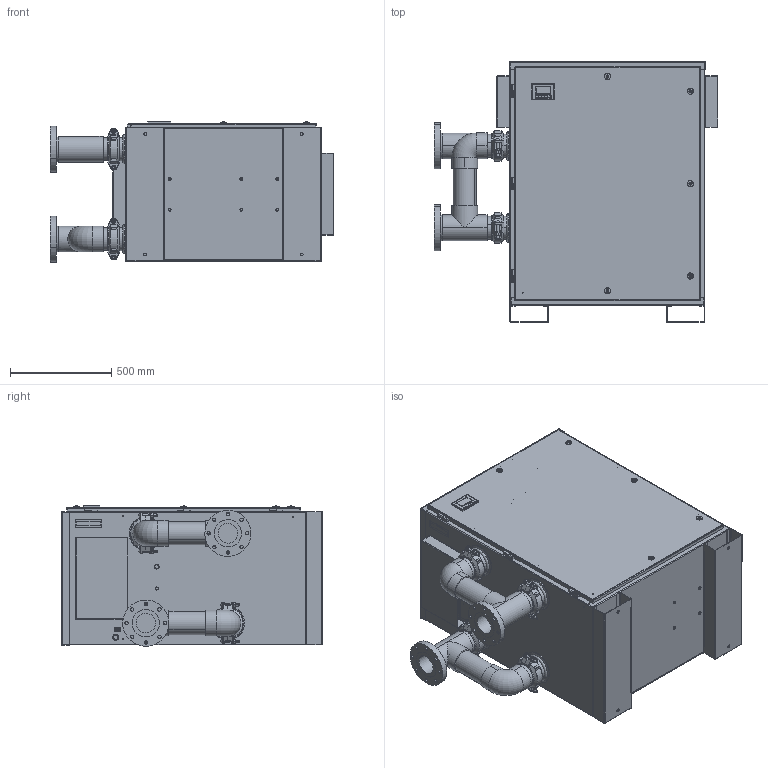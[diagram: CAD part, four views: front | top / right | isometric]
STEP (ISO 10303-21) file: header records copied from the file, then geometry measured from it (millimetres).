
FILE_DESCRIPTION (( 'STEP AP214' ), '1' );
FILE_NAME ('UV-C-PRO-350D.STEP', '2019-03-01T20:08:49', ( '' ), ( '' ), 'SwSTEP 2.0', 'SolidWorks 2017', '' );
FILE_SCHEMA (( 'AUTOMOTIVE_DESIGN' ));
Length unit declared in the file: inch
Products named in the file (1): UV-C-PRO-350D
Bounding box: 1405.24 x 1289.05 x 694.94 mm (x, y, z)
Surface area: 11303229.4 mm2 (no closed solid volume)
Topology: 0 solids, 162 shells, 1155 faces, 6443 edges, 5306 vertices
Faces by surface type: cylinder 485, plane 437, torus 96, bspline 55, cone 50, sphere 32
Entity records: 84171 total; most frequent: CARTESIAN_POINT 19454, DIRECTION 10733, ORIENTED_EDGE 7915, EDGE_CURVE 6413, VERTEX_POINT 5290, AXIS2_PLACEMENT_3D 3903, LINE 2927, VECTOR 2927
